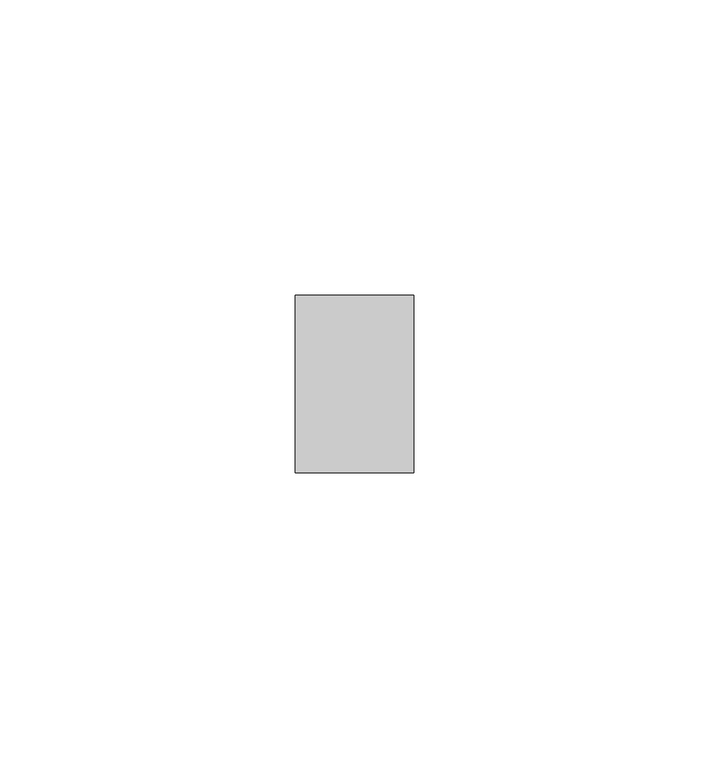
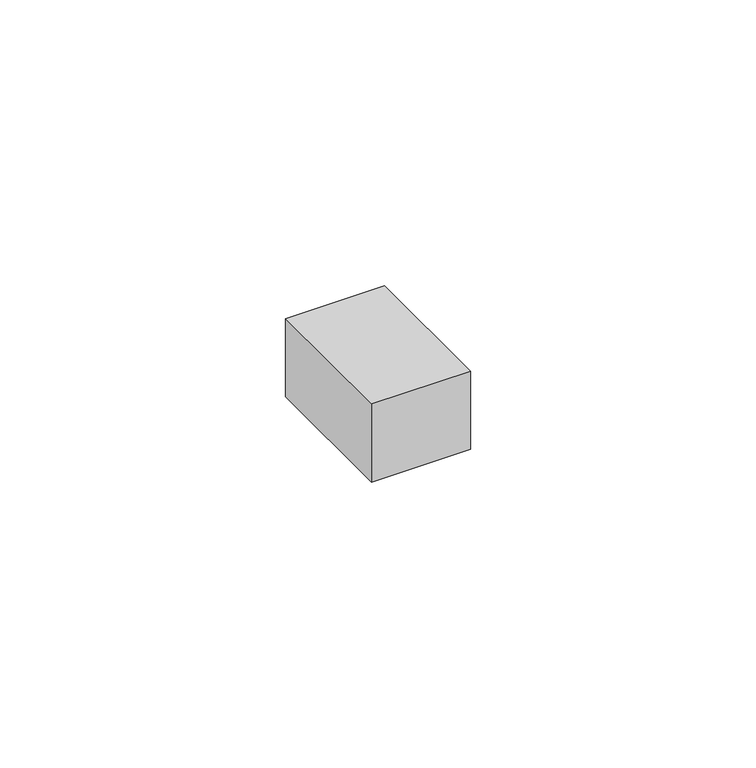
"""IFC4 building model written with IfcOpenShell, lengths in millimetres: member geometry, Прямоугольный импост : Квадрат 10 мм - Зазор между навесными плитами."""

from ifc_helpers import new_model, si_unit, frame, origin, place, context, project, spatial, polyline, outline, extrude, source, transform, mapped, element, save


def member_8184c175(model_context):
    return source(origin(), model_context, "Body", "SweptSolid", [
        extrude(outline(polyline([(10.0, 15.0), (10.0, -15.0), (-10.0, -15.0), (-10.0, 15.0), (10.0, 15.0)])), frame((0.0, 0.0, -16.7314798), z_axis=(0.0, 0.0, 1.0), x_axis=(1.0, 0.0, 0.0)), (0.0, 0.0, 1.0), 16.7314798),
    ])


if __name__ == "__main__":
    model = new_model("IFC4")
    model_context = context("Model", 3, world=origin())
    ifc_project = project(units=[si_unit("LENGTHUNIT", "METRE", prefix="MILLI")], contexts=[model_context])
    site = spatial("IfcSite", under=ifc_project)
    building = spatial("IfcBuilding", under=site)
    placement = place(None, origin())
    member_shape = member_8184c175(model_context)
    element("IfcMember", 1, ObjectType="Прямоугольный импост : Квадрат 10 мм - Зазор между навесными плитами", at=placement, inside=building, context=model_context, shape_type="MappedRepresentation", body=[
        mapped(member_shape, transform((0.0, 0.0, 0.0), x_axis=(1.0, 0.0, 0.0), y_axis=(0.0, 1.0, 0.0), z_axis=(0.0, 0.0, 1.0))),
    ])
    save(model, "model.ifc")
